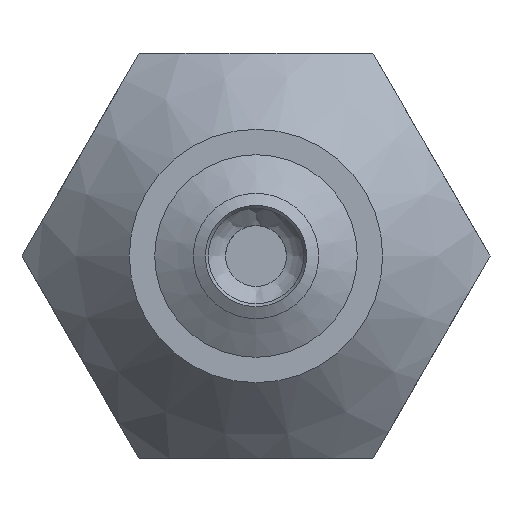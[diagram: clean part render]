
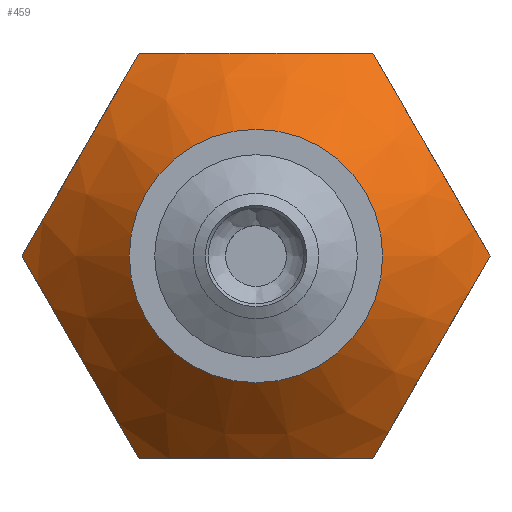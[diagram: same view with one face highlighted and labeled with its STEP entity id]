
A CAD part, front view. The second image highlights one B-rep face of the part: STEP entity #459.
In plain terms, the highlighted conical face has half-angle 45 degrees and reference radius 2.5 mm.
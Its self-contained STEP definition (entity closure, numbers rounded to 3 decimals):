
#459=ADVANCED_FACE('',(#652,#653),#654,.T.);
#652=FACE_BOUND('',#910,.T.);
#653=FACE_OUTER_BOUND('',#911,.T.);
#654=CONICAL_SURFACE('',#912,2.5,0.785);
#910=EDGE_LOOP('',(#1458));
#911=EDGE_LOOP('',(#1459,#1460,#1461,#1462,#1463,#1464));
#912=AXIS2_PLACEMENT_3D('',#1465,#1466,#1467);
#1458=ORIENTED_EDGE('',*,*,#1841,.F.);
#1459=ORIENTED_EDGE('',*,*,#1814,.F.);
#1460=ORIENTED_EDGE('',*,*,#1800,.F.);
#1461=ORIENTED_EDGE('',*,*,#1806,.F.);
#1462=ORIENTED_EDGE('',*,*,#1810,.F.);
#1463=ORIENTED_EDGE('',*,*,#1842,.F.);
#1464=ORIENTED_EDGE('',*,*,#1790,.F.);
#1465=CARTESIAN_POINT('',(0.0,0.,0.0));
#1466=DIRECTION('',(-0.0,1.0,-0.0));
#1467=DIRECTION('',(0.0,0.0,1.0));
#1790=EDGE_CURVE('',#2021,#2022,#2023,.T.);
#1800=EDGE_CURVE('',#2039,#2040,#2041,.T.);
#1806=EDGE_CURVE('',#2049,#2039,#2050,.T.);
#1810=EDGE_CURVE('',#2056,#2049,#2057,.T.);
#1814=EDGE_CURVE('',#2040,#2021,#2063,.T.);
#1841=EDGE_CURVE('',#2113,#2113,#2114,.T.);
#1842=EDGE_CURVE('',#2022,#2056,#2115,.T.);
#2021=VERTEX_POINT('',#2569);
#2022=VERTEX_POINT('',#2570);
#2023=B_SPLINE_CURVE_WITH_KNOTS('',2,(#2571,#2572,#2573,#2574,#2575),.UNSPECIFIED.,.F.,.F.,(3,2,3),(0.0,0.5,1.0),.UNSPECIFIED.);
#2039=VERTEX_POINT('',#2601);
#2040=VERTEX_POINT('',#2602);
#2041=B_SPLINE_CURVE_WITH_KNOTS('',2,(#2603,#2604,#2605,#2606,#2607),.UNSPECIFIED.,.F.,.F.,(3,2,3),(0.0,0.5,1.0),.UNSPECIFIED.);
#2049=VERTEX_POINT('',#2621);
#2050=B_SPLINE_CURVE_WITH_KNOTS('',2,(#2622,#2623,#2624,#2625,#2626),.UNSPECIFIED.,.F.,.F.,(3,2,3),(0.0,0.5,1.0),.UNSPECIFIED.);
#2056=VERTEX_POINT('',#2635);
#2057=B_SPLINE_CURVE_WITH_KNOTS('',2,(#2636,#2637,#2638,#2639,#2640),.UNSPECIFIED.,.F.,.F.,(3,2,3),(0.0,0.5,1.0),.UNSPECIFIED.);
#2063=B_SPLINE_CURVE_WITH_KNOTS('',2,(#2651,#2652,#2653,#2654,#2655),.UNSPECIFIED.,.F.,.F.,(3,2,3),(0.0,0.5,1.0),.UNSPECIFIED.);
#2113=VERTEX_POINT('',#2767);
#2114=CIRCLE('',#2768,2.5);
#2115=B_SPLINE_CURVE_WITH_KNOTS('',2,(#2769,#2770,#2771,#2772,#2773),.UNSPECIFIED.,.F.,.F.,(3,2,3),(0.0,0.5,1.0),.UNSPECIFIED.);
#2569=CARTESIAN_POINT('',(2.309,2.119,-4.0));
#2570=CARTESIAN_POINT('',(-2.309,2.119,-4.0));
#2571=CARTESIAN_POINT('',(2.309,2.119,-4.0));
#2572=CARTESIAN_POINT('',(1.072,1.5,-4.0));
#2573=CARTESIAN_POINT('',(0.001,1.5,-4.0));
#2574=CARTESIAN_POINT('',(-1.071,1.5,-4.0));
#2575=CARTESIAN_POINT('',(-2.309,2.119,-4.0));
#2601=CARTESIAN_POINT('',(2.309,2.119,4.0));
#2602=CARTESIAN_POINT('',(4.619,2.119,0.));
#2603=CARTESIAN_POINT('',(2.309,2.119,4.0));
#2604=CARTESIAN_POINT('',(2.926,1.502,2.932));
#2605=CARTESIAN_POINT('',(3.46,1.5,2.007));
#2606=CARTESIAN_POINT('',(3.998,1.498,1.075));
#2607=CARTESIAN_POINT('',(4.619,2.119,0.));
#2621=CARTESIAN_POINT('',(-2.309,2.119,4.0));
#2622=CARTESIAN_POINT('',(-2.309,2.119,4.0));
#2623=CARTESIAN_POINT('',(-1.072,1.5,4.0));
#2624=CARTESIAN_POINT('',(-0.001,1.5,4.0));
#2625=CARTESIAN_POINT('',(1.071,1.5,4.0));
#2626=CARTESIAN_POINT('',(2.309,2.119,4.0));
#2635=CARTESIAN_POINT('',(-4.619,2.119,0.));
#2636=CARTESIAN_POINT('',(-4.619,2.119,0.));
#2637=CARTESIAN_POINT('',(-4.002,1.502,1.068));
#2638=CARTESIAN_POINT('',(-3.468,1.5,1.993));
#2639=CARTESIAN_POINT('',(-2.93,1.498,2.925));
#2640=CARTESIAN_POINT('',(-2.309,2.119,4.));
#2651=CARTESIAN_POINT('',(4.619,2.119,0.));
#2652=CARTESIAN_POINT('',(4.002,1.502,-1.068));
#2653=CARTESIAN_POINT('',(3.468,1.5,-1.993));
#2654=CARTESIAN_POINT('',(2.93,1.498,-2.925));
#2655=CARTESIAN_POINT('',(2.309,2.119,-4.));
#2767=CARTESIAN_POINT('',(0.0,0.,-2.5));
#2768=AXIS2_PLACEMENT_3D('',#3042,#3043,#3044);
#2769=CARTESIAN_POINT('',(-2.309,2.119,-4.0));
#2770=CARTESIAN_POINT('',(-2.926,1.502,-2.932));
#2771=CARTESIAN_POINT('',(-3.46,1.5,-2.007));
#2772=CARTESIAN_POINT('',(-3.998,1.498,-1.075));
#2773=CARTESIAN_POINT('',(-4.619,2.119,0.));
#3042=CARTESIAN_POINT('',(0.0,0.,0.0));
#3043=DIRECTION('',(0.0,-1.0,0.0));
#3044=DIRECTION('',(0.0,0.0,-1.0));
